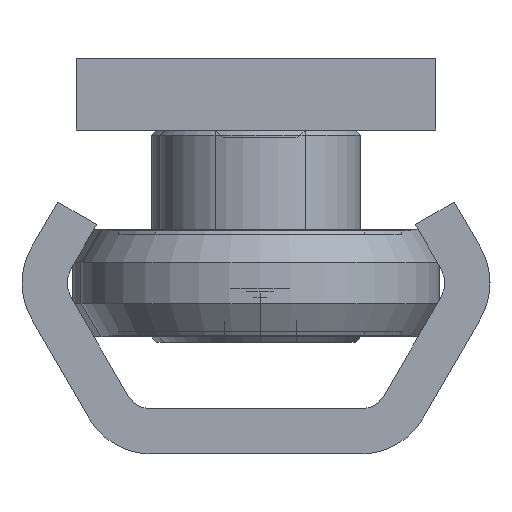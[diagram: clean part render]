
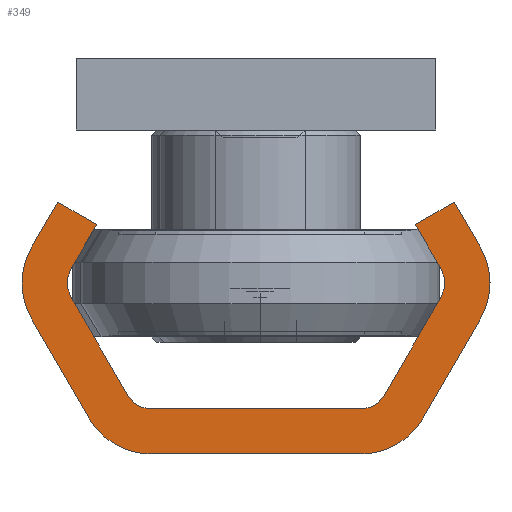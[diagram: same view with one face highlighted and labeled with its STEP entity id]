
A CAD part, left-side view. The second image highlights one B-rep face of the part: STEP entity #349.
In plain terms, the highlighted planar face has unit normal (-1, 0, 0).
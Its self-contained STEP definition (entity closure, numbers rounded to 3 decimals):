
#349 = ADVANCED_FACE( '', ( #777 ), #778, .F. );
#777 = FACE_OUTER_BOUND( '', #1475, .T. );
#778 = PLANE( '', #1476 );
#1475 = EDGE_LOOP( '', ( #2398, #2399, #2400, #2401, #2402, #2403, #2404, #2405, #2406, #2407, #2408, #2409, #2410, #2411, #2412, #2413, #2414, #2415, #2416, #2417 ) );
#1476 = AXIS2_PLACEMENT_3D( '', #2418, #2419, #2420 );
#2398 = ORIENTED_EDGE( '', *, *, #3681, .F. );
#2399 = ORIENTED_EDGE( '', *, *, #3682, .F. );
#2400 = ORIENTED_EDGE( '', *, *, #3683, .F. );
#2401 = ORIENTED_EDGE( '', *, *, #3684, .F. );
#2402 = ORIENTED_EDGE( '', *, *, #3685, .F. );
#2403 = ORIENTED_EDGE( '', *, *, #3686, .F. );
#2404 = ORIENTED_EDGE( '', *, *, #3687, .F. );
#2405 = ORIENTED_EDGE( '', *, *, #3688, .T. );
#2406 = ORIENTED_EDGE( '', *, *, #3689, .F. );
#2407 = ORIENTED_EDGE( '', *, *, #3690, .T. );
#2408 = ORIENTED_EDGE( '', *, *, #3691, .F. );
#2409 = ORIENTED_EDGE( '', *, *, #3692, .T. );
#2410 = ORIENTED_EDGE( '', *, *, #3693, .F. );
#2411 = ORIENTED_EDGE( '', *, *, #3694, .T. );
#2412 = ORIENTED_EDGE( '', *, *, #3695, .F. );
#2413 = ORIENTED_EDGE( '', *, *, #3696, .F. );
#2414 = ORIENTED_EDGE( '', *, *, #3697, .F. );
#2415 = ORIENTED_EDGE( '', *, *, #3657, .F. );
#2416 = ORIENTED_EDGE( '', *, *, #3698, .F. );
#2417 = ORIENTED_EDGE( '', *, *, #3699, .F. );
#2418 = CARTESIAN_POINT( '', ( 0., -5.825, -4. ) );
#2419 = DIRECTION( '', ( 1., 0., 0. ) );
#2420 = DIRECTION( '', ( 0., 0., -1. ) );
#3657 = EDGE_CURVE( '', #4161, #4162, #4163, .T. );
#3681 = EDGE_CURVE( '', #4202, #4203, #4204, .T. );
#3682 = EDGE_CURVE( '', #4205, #4202, #4206, .T. );
#3683 = EDGE_CURVE( '', #4207, #4205, #4208, .T. );
#3684 = EDGE_CURVE( '', #4209, #4207, #4210, .T. );
#3685 = EDGE_CURVE( '', #4211, #4209, #4212, .T. );
#3686 = EDGE_CURVE( '', #4213, #4211, #4214, .T. );
#3687 = EDGE_CURVE( '', #4215, #4213, #4216, .T. );
#3688 = EDGE_CURVE( '', #4215, #4217, #4218, .T. );
#3689 = EDGE_CURVE( '', #4219, #4217, #4220, .T. );
#3690 = EDGE_CURVE( '', #4219, #4221, #4222, .T. );
#3691 = EDGE_CURVE( '', #4223, #4221, #4224, .T. );
#3692 = EDGE_CURVE( '', #4223, #4225, #4226, .T. );
#3693 = EDGE_CURVE( '', #4227, #4225, #4228, .T. );
#3694 = EDGE_CURVE( '', #4227, #4229, #4230, .T. );
#3695 = EDGE_CURVE( '', #4231, #4229, #4232, .T. );
#3696 = EDGE_CURVE( '', #4233, #4231, #4234, .T. );
#3697 = EDGE_CURVE( '', #4162, #4233, #4235, .T. );
#3698 = EDGE_CURVE( '', #4236, #4161, #4237, .T. );
#3699 = EDGE_CURVE( '', #4203, #4236, #4238, .T. );
#4161 = VERTEX_POINT( '', #4900 );
#4162 = VERTEX_POINT( '', #4901 );
#4163 = CIRCLE( '', #4902, 4. );
#4202 = VERTEX_POINT( '', #4946 );
#4203 = VERTEX_POINT( '', #4947 );
#4204 = LINE( '', #4948, #4949 );
#4205 = VERTEX_POINT( '', #4950 );
#4206 = CIRCLE( '', #4951, 4. );
#4207 = VERTEX_POINT( '', #4952 );
#4208 = LINE( '', #4953, #4954 );
#4209 = VERTEX_POINT( '', #4955 );
#4210 = CIRCLE( '', #4956, 4. );
#4211 = VERTEX_POINT( '', #4957 );
#4212 = LINE( '', #4958, #4959 );
#4213 = VERTEX_POINT( '', #4960 );
#4214 = LINE( '', #4961, #4962 );
#4215 = VERTEX_POINT( '', #4963 );
#4216 = LINE( '', #4964, #4965 );
#4217 = VERTEX_POINT( '', #4966 );
#4218 = CIRCLE( '', #4967, 1.5 );
#4219 = VERTEX_POINT( '', #4968 );
#4220 = LINE( '', #4969, #4970 );
#4221 = VERTEX_POINT( '', #4971 );
#4222 = CIRCLE( '', #4972, 1.5 );
#4223 = VERTEX_POINT( '', #4973 );
#4224 = LINE( '', #4974, #4975 );
#4225 = VERTEX_POINT( '', #4976 );
#4226 = CIRCLE( '', #4977, 1.5 );
#4227 = VERTEX_POINT( '', #4978 );
#4228 = LINE( '', #4979, #4980 );
#4229 = VERTEX_POINT( '', #4981 );
#4230 = CIRCLE( '', #4982, 1.5 );
#4231 = VERTEX_POINT( '', #4983 );
#4232 = LINE( '', #4984, #4985 );
#4233 = VERTEX_POINT( '', #4986 );
#4234 = LINE( '', #4987, #4988 );
#4235 = LINE( '', #4989, #4990 );
#4236 = VERTEX_POINT( '', #4991 );
#4237 = LINE( '', #4992, #4993 );
#4238 = CIRCLE( '', #4994, 4. );
#4900 = CARTESIAN_POINT( '', ( 0., -12.464, -7.5 ) );
#4901 = CARTESIAN_POINT( '', ( 0., -12.464, -11.5 ) );
#4902 = AXIS2_PLACEMENT_3D( '', #5763, #5764, #5765 );
#4946 = CARTESIAN_POINT( '', ( 0., 5.825, 0. ) );
#4947 = CARTESIAN_POINT( '', ( 0., -5.825, 0. ) );
#4948 = CARTESIAN_POINT( '', ( 0., 5.825, 0. ) );
#4949 = VECTOR( '', #5804, 1000. );
#4950 = CARTESIAN_POINT( '', ( 0., 9.289, -2. ) );
#4951 = AXIS2_PLACEMENT_3D( '', #5805, #5806, #5807 );
#4952 = CARTESIAN_POINT( '', ( 0., 12.464, -7.5 ) );
#4953 = CARTESIAN_POINT( '', ( 0., 12.464, -7.5 ) );
#4954 = VECTOR( '', #5808, 1000. );
#4955 = CARTESIAN_POINT( '', ( 0., 12.464, -11.5 ) );
#4956 = AXIS2_PLACEMENT_3D( '', #5809, #5810, #5811 );
#4957 = CARTESIAN_POINT( '', ( 0., 11.021, -14. ) );
#4958 = CARTESIAN_POINT( '', ( 0., 11.021, -14. ) );
#4959 = VECTOR( '', #5812, 1000. );
#4960 = CARTESIAN_POINT( '', ( 0., 8.856, -12.75 ) );
#4961 = CARTESIAN_POINT( '', ( 0., 8.856, -12.75 ) );
#4962 = VECTOR( '', #5813, 1000. );
#4963 = CARTESIAN_POINT( '', ( 0., 10.299, -10.25 ) );
#4964 = CARTESIAN_POINT( '', ( 0., 10.299, -10.25 ) );
#4965 = VECTOR( '', #5814, 1000. );
#4966 = CARTESIAN_POINT( '', ( 0., 10.299, -8.75 ) );
#4967 = AXIS2_PLACEMENT_3D( '', #5815, #5816, #5817 );
#4968 = CARTESIAN_POINT( '', ( 0., 7.124, -3.25 ) );
#4969 = CARTESIAN_POINT( '', ( 0., 7.124, -3.25 ) );
#4970 = VECTOR( '', #5818, 1000. );
#4971 = CARTESIAN_POINT( '', ( 0., 5.825, -2.5 ) );
#4972 = AXIS2_PLACEMENT_3D( '', #5819, #5820, #5821 );
#4973 = CARTESIAN_POINT( '', ( 0., -5.825, -2.5 ) );
#4974 = CARTESIAN_POINT( '', ( 0., -5.825, -2.5 ) );
#4975 = VECTOR( '', #5822, 1000. );
#4976 = CARTESIAN_POINT( '', ( 0., -7.124, -3.25 ) );
#4977 = AXIS2_PLACEMENT_3D( '', #5823, #5824, #5825 );
#4978 = CARTESIAN_POINT( '', ( 0., -10.299, -8.75 ) );
#4979 = CARTESIAN_POINT( '', ( 0., -10.299, -8.75 ) );
#4980 = VECTOR( '', #5826, 1000. );
#4981 = CARTESIAN_POINT( '', ( 0., -10.299, -10.25 ) );
#4982 = AXIS2_PLACEMENT_3D( '', #5827, #5828, #5829 );
#4983 = CARTESIAN_POINT( '', ( 0., -8.856, -12.75 ) );
#4984 = CARTESIAN_POINT( '', ( 0., -8.856, -12.75 ) );
#4985 = VECTOR( '', #5830, 1000. );
#4986 = CARTESIAN_POINT( '', ( 0., -11.021, -14. ) );
#4987 = CARTESIAN_POINT( '', ( 0., -11.021, -14. ) );
#4988 = VECTOR( '', #5831, 1000. );
#4989 = CARTESIAN_POINT( '', ( 0., -12.464, -11.5 ) );
#4990 = VECTOR( '', #5832, 1000. );
#4991 = CARTESIAN_POINT( '', ( 0., -9.289, -2. ) );
#4992 = CARTESIAN_POINT( '', ( 0., -9.289, -2. ) );
#4993 = VECTOR( '', #5833, 1000. );
#4994 = AXIS2_PLACEMENT_3D( '', #5834, #5835, #5836 );
#5763 = CARTESIAN_POINT( '', ( 0., -9., -9.5 ) );
#5764 = DIRECTION( '', ( 1., 0., 0. ) );
#5765 = DIRECTION( '', ( 0., 0., -1. ) );
#5804 = DIRECTION( '', ( 0., -1., 0. ) );
#5805 = CARTESIAN_POINT( '', ( 0., 5.825, -4. ) );
#5806 = DIRECTION( '', ( 1., 0., 0. ) );
#5807 = DIRECTION( '', ( 0., 0., -1. ) );
#5808 = DIRECTION( '', ( 0., -0.5, 0.866 ) );
#5809 = CARTESIAN_POINT( '', ( 0., 9., -9.5 ) );
#5810 = DIRECTION( '', ( 1., 0., 0. ) );
#5811 = DIRECTION( '', ( 0., 0., -1. ) );
#5812 = DIRECTION( '', ( 0., 0.5, 0.866 ) );
#5813 = DIRECTION( '', ( 0., 0.866, -0.5 ) );
#5814 = DIRECTION( '', ( 0., -0.5, -0.866 ) );
#5815 = CARTESIAN_POINT( '', ( 0., 9., -9.5 ) );
#5816 = DIRECTION( '', ( 1., 0., 0. ) );
#5817 = DIRECTION( '', ( 0., 0., -1. ) );
#5818 = DIRECTION( '', ( 0., 0.5, -0.866 ) );
#5819 = CARTESIAN_POINT( '', ( 0., 5.825, -4. ) );
#5820 = DIRECTION( '', ( 1., 0., 0. ) );
#5821 = DIRECTION( '', ( 0., 0., -1. ) );
#5822 = DIRECTION( '', ( 0., 1., 0. ) );
#5823 = CARTESIAN_POINT( '', ( 0., -5.825, -4. ) );
#5824 = DIRECTION( '', ( 1., 0., 0. ) );
#5825 = DIRECTION( '', ( 0., 0., -1. ) );
#5826 = DIRECTION( '', ( 0., 0.5, 0.866 ) );
#5827 = CARTESIAN_POINT( '', ( 0., -9., -9.5 ) );
#5828 = DIRECTION( '', ( 1., 0., 0. ) );
#5829 = DIRECTION( '', ( 0., 0., -1. ) );
#5830 = DIRECTION( '', ( 0., -0.5, 0.866 ) );
#5831 = DIRECTION( '', ( 0., 0.866, 0.5 ) );
#5832 = DIRECTION( '', ( 0., 0.5, -0.866 ) );
#5833 = DIRECTION( '', ( 0., -0.5, -0.866 ) );
#5834 = CARTESIAN_POINT( '', ( 0., -5.825, -4. ) );
#5835 = DIRECTION( '', ( 1., 0., 0. ) );
#5836 = DIRECTION( '', ( 0., 0., -1. ) );
